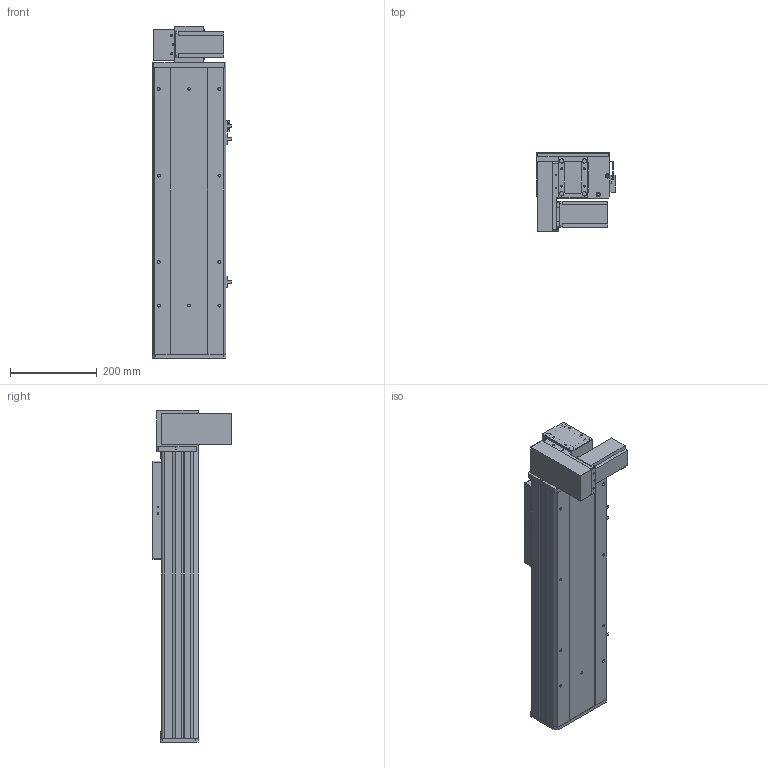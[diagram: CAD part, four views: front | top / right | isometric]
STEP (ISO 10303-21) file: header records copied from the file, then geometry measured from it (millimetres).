
FILE_DESCRIPTION (( 'STEP AP203' ), '1' );
FILE_NAME ('Y170CB-D105-S350-BM-P400W.STEP', '2020-02-20T06:10:30', ( '微软用户' ), ( '微软中国' ), 'SwSTEP 2.0', 'SolidWorks 2017', '' );
FILE_SCHEMA (( 'CONFIG_CONTROL_DESIGN' ));
Length unit declared in the file: millimetre
Products named in the file (18): san松下电机400不带刹车----; Y100-135俋离換覜ん--; 70CB-掛极-; Y170CB-陔俋离換覜結え---; --70CB --喘謫眊楊擘啣-; Y1埴倛裔; 70CB-耜裔啣-; 17B-耜蚾蟀諉啣----; 70C--詩湍揤踡え-; 00B-俋欶BM--163; 70CB--耜裔; 70B喘謫眊----; 70C-雄赽釱-奻-; B-源倛裔啣; Y170CB-D105-S350-BM-P400W; 0C--雄赽釱俋欶-170; 0B-萇儂楊擘啣; 70CB-詩湍--
Assembly tree (21 placements, depth 2):
  Y170CB-D105-S350-BM-P400W
    B-源倛裔啣
    0B-萇儂楊擘啣
    san松下电机400不带刹车----
    70CB-掛极-
    --70CB --喘謫眊楊擘啣-
    70CB-耜裔啣-  x2
    70C--詩湍揤踡え-  x2
    70CB--耜裔
    70C-雄赽釱-奻-
    0C--雄赽釱俋欶-170
    70CB-詩湍--
    Y100-135俋离換覜ん--  x3
    Y170CB-陔俋离換覜結え---
    Y1埴倛裔
    17B-耜蚾蟀諉啣----
    00B-俋欶BM--163
    70B喘謫眊----
Bounding box: 183.5 x 184 x 766 mm (x, y, z)
Volume: 3979971 mm3; surface area: 1412034 mm2
Topology: 21 solids, 21 shells, 983 faces, 2621 edges, 1738 vertices
Faces by surface type: cylinder 497, plane 462, cone 24
Entity records: 31160 total; most frequent: CARTESIAN_POINT 5676, DIRECTION 5066, ORIENTED_EDGE 4724, EDGE_CURVE 2362, AXIS2_PLACEMENT_3D 1848, VERTEX_POINT 1568, VECTOR 1370, LINE 1370
